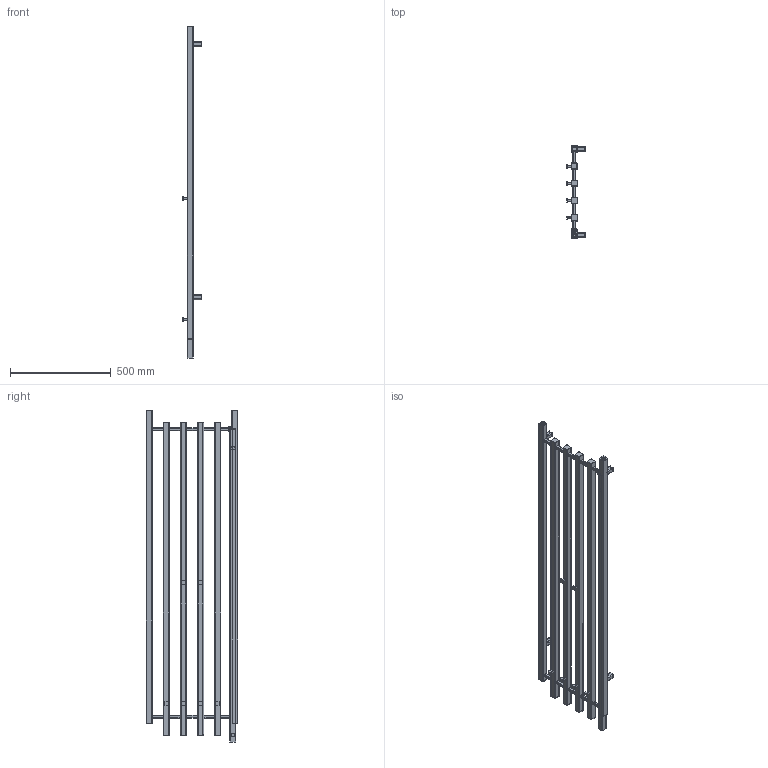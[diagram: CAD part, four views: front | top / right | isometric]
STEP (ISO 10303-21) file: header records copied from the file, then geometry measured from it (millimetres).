
FILE_DESCRIPTION( ( 'Unknown' ), '1' );
FILE_NAME( 'D:/Alplast sp. j/Witryna zespoBu - Projekty/Archiwum/Grzejniki Archiwum/Projekty/DESIGN PROGRAM/TUBO K/TUBO 2 K.stp', 'Unknown', ( 'Unknown' ), ( 'Unknown' ), 'PSStep 10.1', 'Unknown', ' ' );
FILE_SCHEMA( ( 'AUTOMOTIVE_DESIGN { 1 0 10303 214 1 1 1 1 }' ) );
Length unit declared in the file: millimetre
Products named in the file (13): Assem1; Mocowanie kwadratowe L40; Wieszak kwadrat; profil z wciêciami; blacha z fasol¹ kwadrat; MOCOWANIE L40-03; wieszak 02; wieszak 01; TUBO 2 K ³¹cznik górny 20x20; RURA BOCZNA LEWA PRAWA  30x30 1555  ; RURA ŒRODKOWA  LEWA PRAWA  30x30 1555  ; zaslepka kwadrat pe³na; zaslepka kwadrat otwor
Bounding box: 94.12 x 455 x 1646.12 mm (x, y, z)
Volume: 2269641 mm3; surface area: 2959118.1 mm2
Topology: 59 solids, 59 shells, 1213 faces, 3444 edges, 2264 vertices
Faces by surface type: plane 677, cylinder 524, torus 6, cone 6
Full cylindrical faces by diameter (mm): 4.917 x6, 10 x48, 16 x6, 18 x6, 18.631 x3, 23 x3
Entity records: 11380 total; most frequent: CARTESIAN_POINT 2226, DIRECTION 1476, ORIENTED_EDGE 1440, EDGE_CURVE 720, AXIS2_PLACEMENT_3D 534, VERTEX_POINT 484, LINE 408, VECTOR 408
